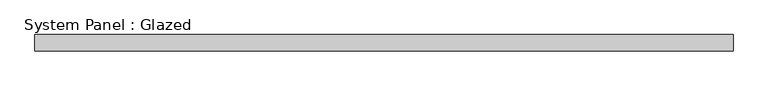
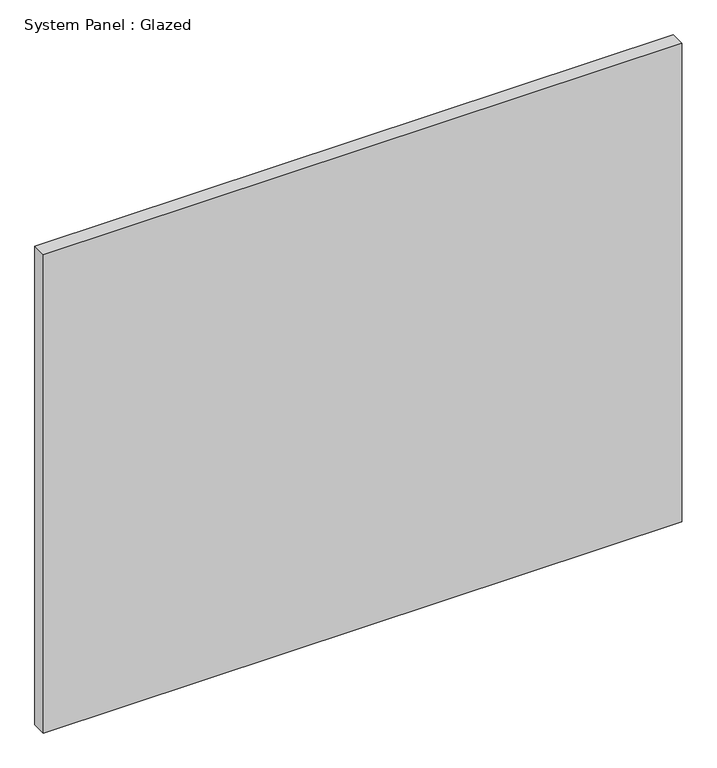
"""IFC4 building model written with IfcOpenShell, lengths in millimetres: plate geometry, System Panel : Glazed."""

from ifc_helpers import new_model, si_unit, origin, origin_with_axes, place, context, project, spatial, polyline, outline, extrude, source, transform, mapped, element, save


def system_panel_glazed_8c2c847a(model_context):
    return source(origin(), model_context, "Body", "SweptSolid", [
        extrude(outline(polyline([(549.275, 19.05), (-549.275, 19.05), (-549.275, 44.45), (549.275, 44.45), (549.275, 19.05)])), origin_with_axes(), (0.0, 0.0, 1.0), 869.95),
    ])


if __name__ == "__main__":
    model = new_model("IFC4")
    model_context = context("Model", 3, world=origin())
    ifc_project = project(units=[si_unit("LENGTHUNIT", "METRE", prefix="MILLI")], contexts=[model_context])
    site = spatial("IfcSite", under=ifc_project)
    building = spatial("IfcBuilding", under=site)
    placement = place(None, origin())
    system_panel_glazed_shape = system_panel_glazed_8c2c847a(model_context)
    element("IfcPlate", 1, ObjectType="System Panel : Glazed", at=placement, inside=building, context=model_context, shape_type="MappedRepresentation", body=[
        mapped(system_panel_glazed_shape, transform((0.0, 0.0, 0.0), x_axis=(1.0, 0.0, 0.0), y_axis=(0.0, 1.0, 0.0), z_axis=(0.0, 0.0, 1.0))),
    ])
    save(model, "model.ifc")
